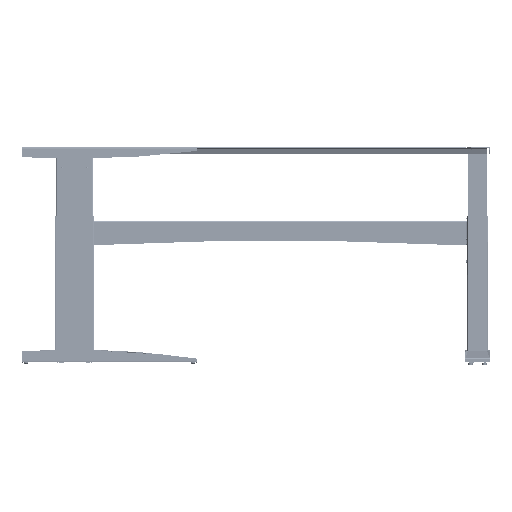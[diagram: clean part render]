
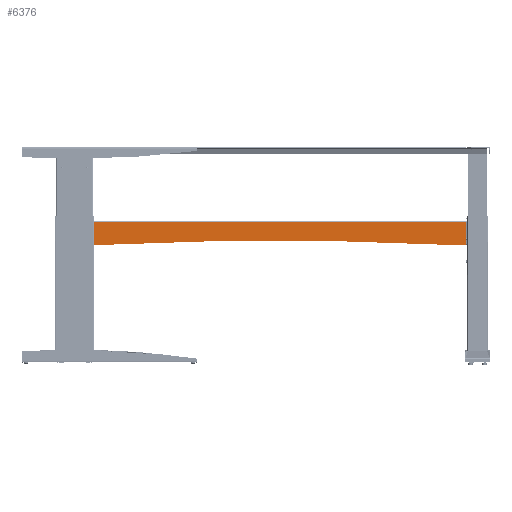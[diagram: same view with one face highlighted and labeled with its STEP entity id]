
A CAD part, left-side view. The second image highlights one B-rep face of the part: STEP entity #6376.
In plain terms, the highlighted planar face has unit normal (-1, 0, 0) as drawn and (1, 0, 0) by its records, which use the part's own axes.
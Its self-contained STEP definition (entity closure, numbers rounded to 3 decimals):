
#2204 = VERTEX_POINT ( 'NONE', #3570 ) ;
#3570 = CARTESIAN_POINT ( 'NONE',  ( 23.15, -1., -800.15 ) ) ;
#5600 = DIRECTION ( 'NONE',  ( 0., -1., 0. ) ) ;
#6376 = ADVANCED_FACE ( 'NONE', ( #46171 ), #76432, .F. ) ;
#10402 = CARTESIAN_POINT ( 'NONE',  ( 23.15, -99.95, 800.15 ) ) ;
#12905 = DIRECTION ( 'NONE',  ( 0., -1., 0. ) ) ;
#14555 = DIRECTION ( 'NONE',  ( -1., 0., 0. ) ) ;
#19697 = VERTEX_POINT ( 'NONE', #107640 ) ;
#19879 = DIRECTION ( 'NONE',  ( 0., 1., 0. ) ) ;
#24348 = CARTESIAN_POINT ( 'NONE',  ( 23.15, -16136.033, 0. ) ) ;
#25668 = EDGE_LOOP ( 'NONE', ( #120632, #136816, #26230, #131015 ) ) ;
#26230 = ORIENTED_EDGE ( 'NONE', *, *, #26625, .F. ) ;
#26625 = EDGE_CURVE ( 'NONE', #83498, #112913, #122102, .T. ) ;
#33643 = VECTOR ( 'NONE', #5600, 1000. ) ;
#41691 = CARTESIAN_POINT ( 'NONE',  ( 23.15, -100., 800.15 ) ) ;
#44367 = CIRCLE ( 'NONE', #110125, 16056.033 ) ;
#44497 = DIRECTION ( 'NONE',  ( -1., 0., 0. ) ) ;
#46171 = FACE_OUTER_BOUND ( 'NONE', #25668, .T. ) ;
#52378 = EDGE_CURVE ( 'NONE', #83498, #19697, #44367, .T. ) ;
#52540 = VECTOR ( 'NONE', #19879, 1000. ) ;
#55169 = CARTESIAN_POINT ( 'NONE',  ( 23.15, 0., 801.15 ) ) ;
#58602 = VECTOR ( 'NONE', #134623, 1000. ) ;
#72438 = EDGE_CURVE ( 'NONE', #112913, #2204, #86766, .T. ) ;
#75088 = LINE ( 'NONE', #122291, #33643 ) ;
#76432 = PLANE ( 'NONE',  #80281 ) ;
#80281 = AXIS2_PLACEMENT_3D ( 'NONE', #55169, #44497, #12905 ) ;
#83498 = VERTEX_POINT ( 'NONE', #10402 ) ;
#86766 = LINE ( 'NONE', #131433, #58602 ) ;
#88864 = EDGE_CURVE ( 'NONE', #2204, #19697, #75088, .T. ) ;
#98966 = CARTESIAN_POINT ( 'NONE',  ( 23.15, -1., 800.15 ) ) ;
#107640 = CARTESIAN_POINT ( 'NONE',  ( 23.15, -99.95, -800.15 ) ) ;
#110125 = AXIS2_PLACEMENT_3D ( 'NONE', #24348, #14555, #119741 ) ;
#112913 = VERTEX_POINT ( 'NONE', #98966 ) ;
#119741 = DIRECTION ( 'NONE',  ( 0., -1., 0. ) ) ;
#120632 = ORIENTED_EDGE ( 'NONE', *, *, #88864, .F. ) ;
#122102 = LINE ( 'NONE', #41691, #52540 ) ;
#122291 = CARTESIAN_POINT ( 'NONE',  ( 23.15, -1., -800.15 ) ) ;
#131015 = ORIENTED_EDGE ( 'NONE', *, *, #52378, .T. ) ;
#131433 = CARTESIAN_POINT ( 'NONE',  ( 23.15, -1., 801.15 ) ) ;
#134623 = DIRECTION ( 'NONE',  ( 0., 0., -1. ) ) ;
#136816 = ORIENTED_EDGE ( 'NONE', *, *, #72438, .F. ) ;
